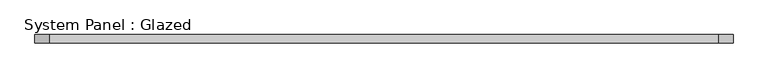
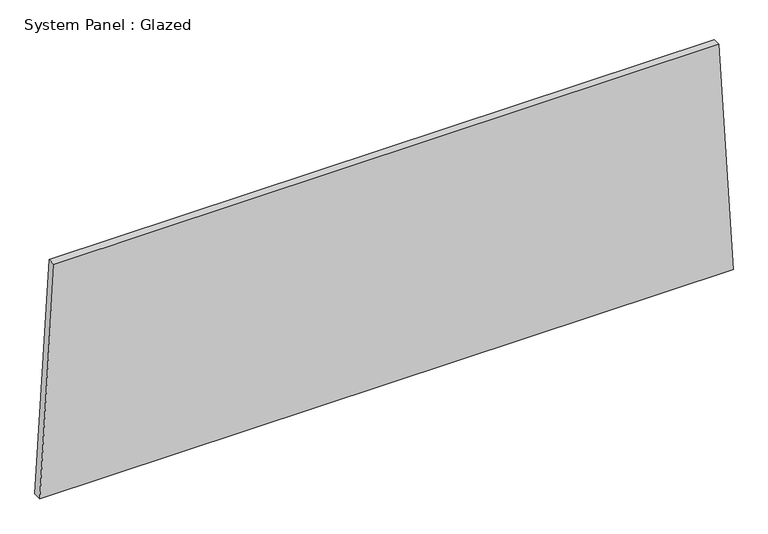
"""IFC4 building model written with IfcOpenShell, lengths in millimetres: plate geometry, System Panel : Glazed."""

from ifc_helpers import new_model, si_unit, frame, origin, place, context, project, spatial, polyline, outline, extrude, source, transform, mapped, element, save


def system_panel_glazed_c16507b5(model_context):
    return source(origin(), model_context, "Body", "SweptSolid", [
        extrude(outline(polyline([(0.0, -1049.1992511), (0.0, 1049.1992511), (735.3003601, 1006.1991075), (735.3003601, -1006.1991075), (0.0, -1049.1992511)])), frame((0.0, 19.05, 0.0), z_axis=(0.0, 1.0, 0.0), x_axis=(0.0, 0.0, 1.0)), (0.0, 0.0, 1.0), 25.4),
    ])


if __name__ == "__main__":
    model = new_model("IFC4")
    model_context = context("Model", 3, world=origin())
    ifc_project = project(units=[si_unit("LENGTHUNIT", "METRE", prefix="MILLI")], contexts=[model_context])
    site = spatial("IfcSite", under=ifc_project)
    building = spatial("IfcBuilding", under=site)
    placement = place(None, origin())
    system_panel_glazed_shape = system_panel_glazed_c16507b5(model_context)
    element("IfcPlate", 1, ObjectType="System Panel : Glazed", at=placement, inside=building, context=model_context, shape_type="MappedRepresentation", body=[
        mapped(system_panel_glazed_shape, transform((0.0, 0.0, 0.0), x_axis=(1.0, 0.0, 0.0), y_axis=(0.0, 1.0, 0.0), z_axis=(0.0, 0.0, 1.0))),
    ])
    save(model, "model.ifc")
